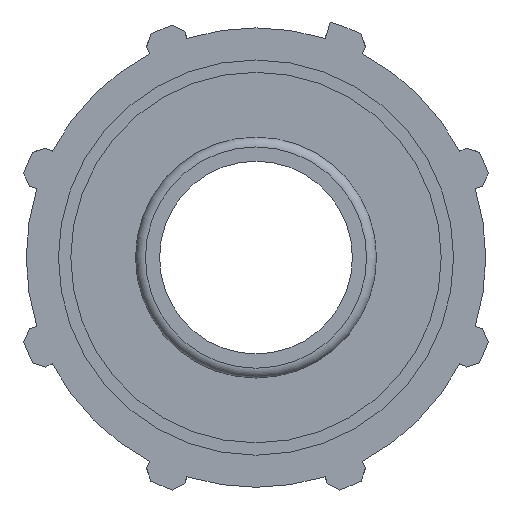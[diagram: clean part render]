
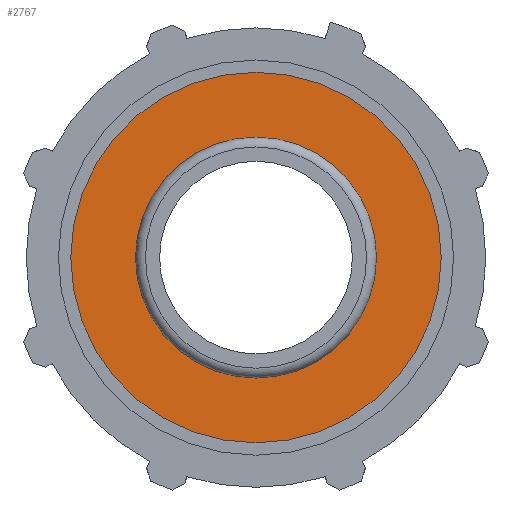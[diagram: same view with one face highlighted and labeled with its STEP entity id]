
A CAD part, left-side view. The second image highlights one B-rep face of the part: STEP entity #2767.
In plain terms, the highlighted planar face has unit normal (-1, 0, 0).
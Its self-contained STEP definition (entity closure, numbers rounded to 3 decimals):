
#585=PLANE('',#3074);
#611=FACE_BOUND('',#944,.T.);
#765=FACE_OUTER_BOUND('',#943,.T.);
#943=EDGE_LOOP('',(#2587));
#944=EDGE_LOOP('',(#2588));
#958=CIRCLE('',#2786,20.);
#1102=CIRCLE('',#3075,30.75);
#1112=VERTEX_POINT('',#3910);
#1380=VERTEX_POINT('',#4863);
#1390=EDGE_CURVE('',#1112,#1112,#958,.T.);
#1784=EDGE_CURVE('',#1380,#1380,#1102,.T.);
#2587=ORIENTED_EDGE('',*,*,#1784,.F.);
#2588=ORIENTED_EDGE('',*,*,#1390,.T.);
#2767=ADVANCED_FACE('',(#765,#611),#585,.T.);
#2786=AXIS2_PLACEMENT_3D('',#3911,#3109,#3110);
#3074=AXIS2_PLACEMENT_3D('',#4862,#3875,#3876);
#3075=AXIS2_PLACEMENT_3D('',#4864,#3877,#3878);
#3109=DIRECTION('center_axis',(1.,0.,0.));
#3110=DIRECTION('ref_axis',(0.,0.,-1.));
#3875=DIRECTION('center_axis',(-1.,0.,0.));
#3876=DIRECTION('ref_axis',(0.,0.,1.));
#3877=DIRECTION('center_axis',(1.,0.,0.));
#3878=DIRECTION('ref_axis',(0.,0.,-1.));
#3910=CARTESIAN_POINT('',(-20.4,20.,0.));
#3911=CARTESIAN_POINT('Origin',(-20.4,0.,0.));
#4862=CARTESIAN_POINT('Origin',(-20.4,30.75,0.));
#4863=CARTESIAN_POINT('',(-20.4,30.75,0.));
#4864=CARTESIAN_POINT('Origin',(-20.4,0.,0.));
